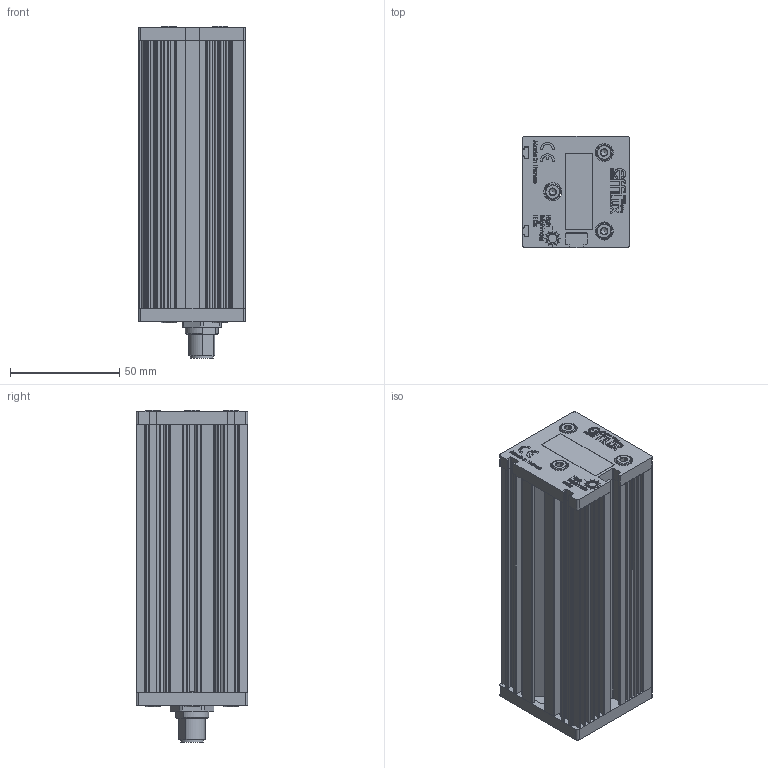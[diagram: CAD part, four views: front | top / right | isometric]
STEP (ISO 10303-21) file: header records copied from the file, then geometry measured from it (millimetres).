
FILE_DESCRIPTION (( 'STEP AP203' ), '1' );
FILE_NAME ('008771A.STEP', '2018-10-15T09:18:53', ( '' ), ( '' ), 'SwSTEP 2.0', 'SolidWorks 2018', '' );
FILE_SCHEMA (( 'CONFIG_CONTROL_DESIGN' ));
Products named in the file (2): 008771A
Bounding box: 49 x 51.01 x 152.2 mm (x, y, z)
Volume: 99220.6 mm3; surface area: 111437.5 mm2
Topology: 21 solids, 21 shells, 2629 faces, 7145 edges, 4745 vertices
Faces by surface type: plane 1605, bspline 551, cylinder 345, cone 128
Full cylindrical faces by diameter (mm): 0.77 x4, 0.957 x2, 0.97 x4, 1 x4, 1.05 x4, 4 x3, 4.3 x3, 7 x6, 7.7 x1, 8.3 x1, 10.4 x1, 11 x1, 13 x1, 13.4 x1, 16 x1
Entity records: 122376 total; most frequent: CARTESIAN_POINT 59821, ORIENTED_EDGE 13992, DIRECTION 10829, EDGE_CURVE 6996, VECTOR 4865, LINE 4865, VERTEX_POINT 4682, AXIS2_PLACEMENT_3D 2982
